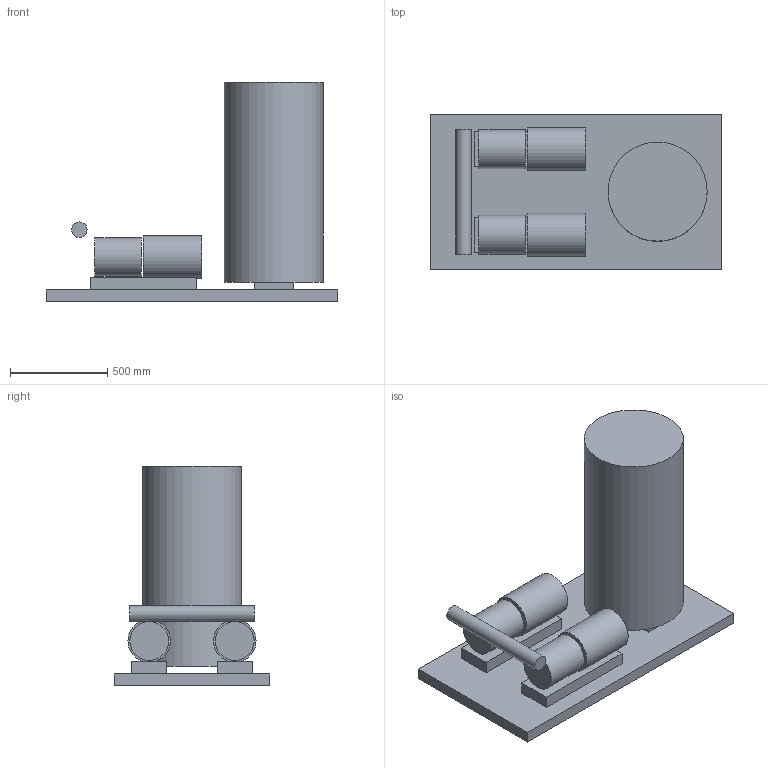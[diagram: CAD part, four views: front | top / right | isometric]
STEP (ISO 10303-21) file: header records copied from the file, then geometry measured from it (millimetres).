
FILE_DESCRIPTION(('Open CASCADE Model'),'2;1');
FILE_NAME('Open CASCADE Shape Model','2026-09-16T08:19:21',('Author'),( 'Open CASCADE'),'Open CASCADE STEP processor 7.8','Open CASCADE 7.8' ,'Unknown');
FILE_SCHEMA(('AUTOMOTIVE_DESIGN { 1 0 10303 214 1 1 1 1 }'));
Length unit declared in the file: millimetre
Products named in the file (12): Open CASCADE STEP translator 7.8 1; Open CASCADE STEP translator 7.8 1.1; Open CASCADE STEP translator 7.8 1.2; Open CASCADE STEP translator 7.8 1.3; Open CASCADE STEP translator 7.8 1.4; Open CASCADE STEP translator 7.8 1.5; Open CASCADE STEP translator 7.8 1.6; Open CASCADE STEP translator 7.8 1.7; Open CASCADE STEP translator 7.8 1.8; Open CASCADE STEP translator 7.8 1.9; Open CASCADE STEP translator 7.8 1.10; Open CASCADE STEP translator 7.8 1.11
Assembly tree (11 placements, depth 2):
  Open CASCADE STEP translator 7.8 1
    Open CASCADE STEP translator 7.8 1.1
    Open CASCADE STEP translator 7.8 1.2
    Open CASCADE STEP translator 7.8 1.3
    Open CASCADE STEP translator 7.8 1.4
    Open CASCADE STEP translator 7.8 1.5
    Open CASCADE STEP translator 7.8 1.6
    Open CASCADE STEP translator 7.8 1.7
    Open CASCADE STEP translator 7.8 1.8
    Open CASCADE STEP translator 7.8 1.9
    Open CASCADE STEP translator 7.8 1.10
    Open CASCADE STEP translator 7.8 1.11
Bounding box: 1500 x 800 x 1128.59 mm (x, y, z)
Volume: 337217418.9 mm3; surface area: 6582488.8 mm2
Topology: 11 solids, 11 shells, 48 faces, 78 edges, 52 vertices
Faces by surface type: plane 42, cylinder 6
Full cylindrical faces by diameter (mm): 80 x1, 200 x2, 220 x2, 510 x1
Entity records: 2296 total; most frequent: DIRECTION 366, CARTESIAN_POINT 346, LINE 210, VECTOR 210, ORIENTED_EDGE 156, PCURVE 156, DEFINITIONAL_REPRESENTATION 156, EDGE_CURVE 78
